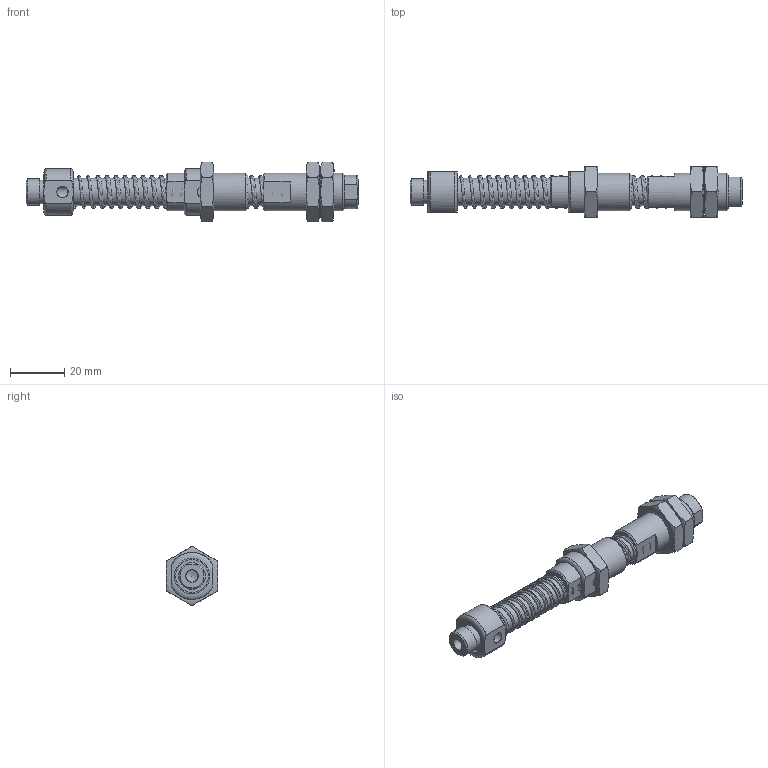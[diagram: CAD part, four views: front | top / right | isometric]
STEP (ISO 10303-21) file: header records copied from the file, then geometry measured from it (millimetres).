
FILE_DESCRIPTION( ( 'Unknown' ), '1' );
FILE_NAME( 'C:/Documents and Settings/Owner/官帕 拳搁/LEVEL SPRING HOMEPAGE/L18 Series/L1850/L1850.stp', 'Unknown', ( 'Unknown' ), ( 'Unknown' ), 'PSStep 10.0', 'Unknown', ' ' );
FILE_SCHEMA( ( 'AUTOMOTIVE_DESIGN { 1 0 10303 214 1 1 1 1 }' ) );
Length unit declared in the file: millimetre
Products named in the file (7): Assem1; SHA; NIPPLE; HOU; END CAP; NUT(M14XP1.5); spring
Bounding box: 122.5 x 19 x 21.94 mm (x, y, z)
Surface area: 23713.5 mm2 (no closed solid volume)
Topology: 0 solids, 149 shells, 149 faces, 551 edges, 484 vertices
Faces by surface type: plane 70, cylinder 43, cone 22, revolution 12, bspline 2
Full cylindrical faces by diameter (mm): 4.2 x2, 4.5 x2, 5 x4, 6 x4, 6.8 x4, 8 x4, 8.8 x2, 9.8 x2, 10 x4, 12 x2, 14 x5
Entity records: 6233 total; most frequent: CARTESIAN_POINT 3778, DIRECTION 377, ORIENTED_EDGE 208, EDGE_CURVE 208, VERTEX_POINT 208, AXIS2_PLACEMENT_3D 162, FACE_BOUND 113, EDGE_LOOP 113
